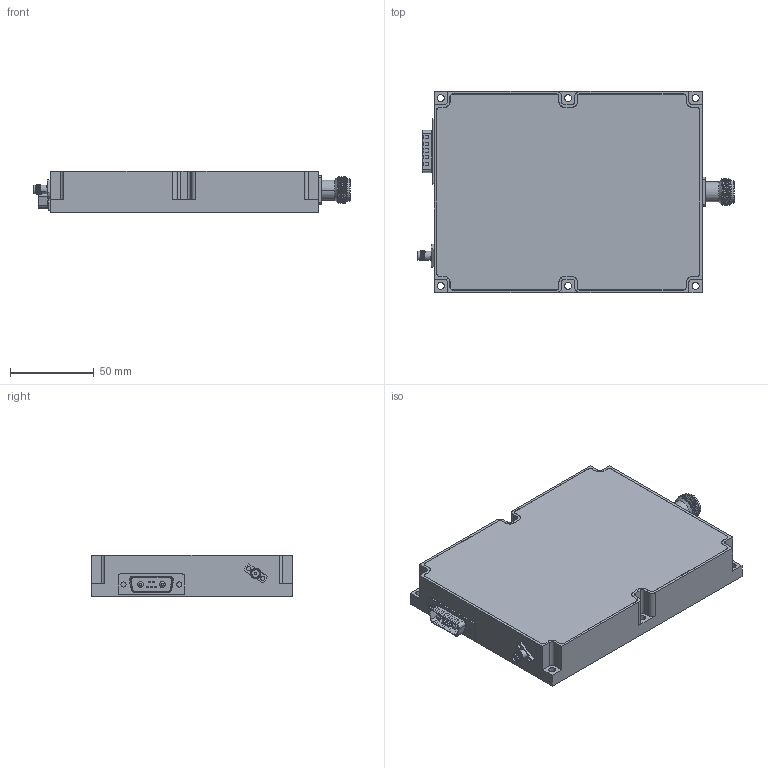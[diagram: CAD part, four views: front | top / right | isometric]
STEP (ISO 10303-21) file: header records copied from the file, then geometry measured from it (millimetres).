
FILE_DESCRIPTION (( 'STEP AP214' ), '1' );
FILE_NAME ('80120-100蚾饜极.STEP', '2026-08-29T10:55:17', ( '' ), ( '' ), 'SwSTEP 2.0', 'SolidWorks 2022', '' );
FILE_SCHEMA (( 'AUTOMOTIVE_DESIGN' ));
Length unit declared in the file: millimetre
Products named in the file (6): 80120-100装配体; 主体; SMA_connecor; N-KFD; 盖板; D-Sub Connector  5+2 Combo Plug Male Pins
Assembly tree (5 placements, depth 2):
  80120-100装配体
    主体
    D-Sub Connector  5+2 Combo Plug Male Pins
    N-KFD
    盖板
    SMA_connecor
Bounding box: 188.45 x 120 x 25 mm (x, y, z)
Volume: 187862.1 mm3; surface area: 104973 mm2
Topology: 12 solids, 14 shells, 521 faces, 1369 edges, 875 vertices
Faces by surface type: cylinder 242, plane 207, cone 35, torus 18, sphere 14, bspline 5
Entity records: 24688 total; most frequent: CARTESIAN_POINT 10176, DIRECTION 2721, ORIENTED_EDGE 2652, EDGE_CURVE 1327, AXIS2_PLACEMENT_3D 1003, VERTEX_POINT 863, LINE 715, VECTOR 715
